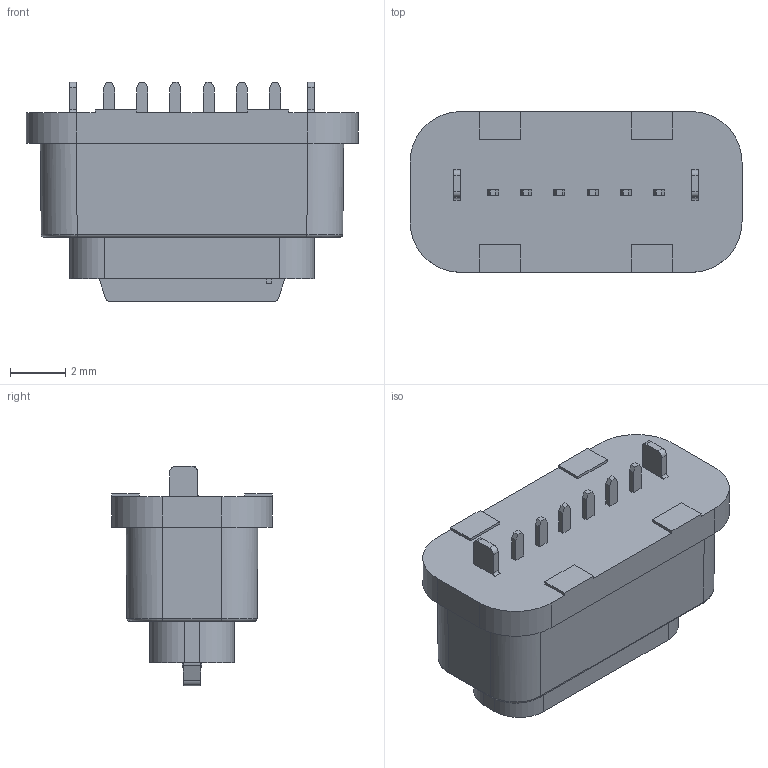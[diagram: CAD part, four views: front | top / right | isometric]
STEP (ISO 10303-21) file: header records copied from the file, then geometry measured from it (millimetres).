
FILE_DESCRIPTION((''),'2;1');
FILE_NAME('1020046','2023-07-13T10:59:10',('Administrator'),(''),'CREO PARAMETRIC BY PTC INC, 2019080','CREO PARAMETRIC BY PTC INC, 2019080','');
FILE_SCHEMA(('CONFIG_CONTROL_DESIGN'));
Length unit declared in the file: millimetre
Products named in the file (1): 1020046
Bounding box: 12 x 5.81 x 7.93 mm (x, y, z)
Volume: 233.4 mm3; surface area: 461 mm2
Topology: 1 solids, 4 shells, 246 faces, 626 edges, 400 vertices
Faces by surface type: plane 172, cylinder 58, cone 8, torus 8
Entity records: 7452 total; most frequent: CARTESIAN_POINT 1412, ORIENTED_EDGE 1252, DIRECTION 1222, EDGE_CURVE 626, VECTOR 486, LINE 486, VERTEX_POINT 400, AXIS2_PLACEMENT_3D 368
